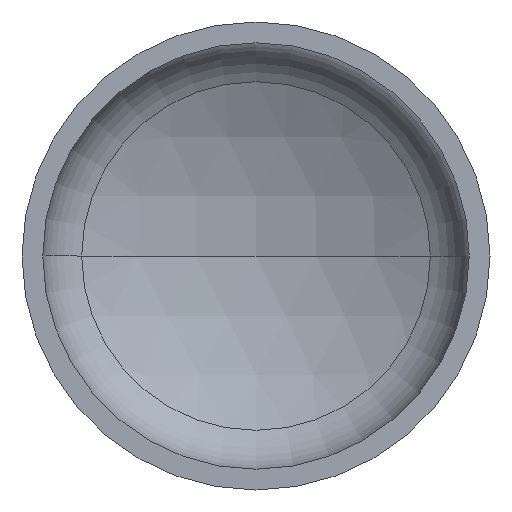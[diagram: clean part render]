
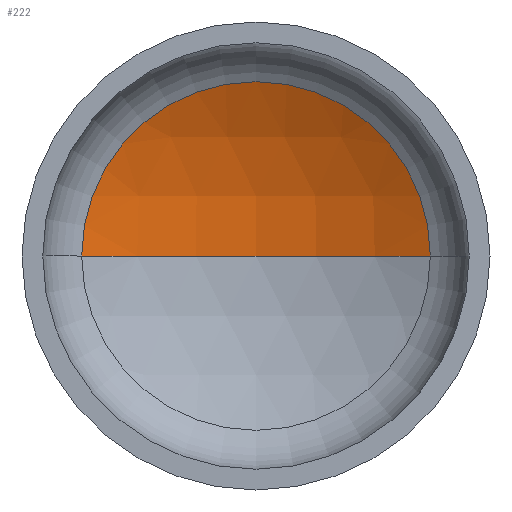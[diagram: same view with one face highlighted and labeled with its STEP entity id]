
A CAD part, front view. The second image highlights one B-rep face of the part: STEP entity #222.
In plain terms, the highlighted spherical face has radius 720 mm.
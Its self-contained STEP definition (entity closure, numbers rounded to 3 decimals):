
#3 = FACE_OUTER_BOUND ( 'NONE', #8, .T. ) ;
#8 = EDGE_LOOP ( 'NONE', ( #19, #399, #137 ) ) ;
#13 = AXIS2_PLACEMENT_3D ( 'NONE', #236, #274, #179 ) ;
#19 = ORIENTED_EDGE ( 'NONE', *, *, #79, .F. ) ;
#20 = VERTEX_POINT ( 'NONE', #281 ) ;
#25 = AXIS2_PLACEMENT_3D ( 'NONE', #26, #130, #309 ) ;
#26 = CARTESIAN_POINT ( 'NONE',  ( 0., -393.323, 0. ) ) ;
#29 = AXIS2_PLACEMENT_3D ( 'NONE', #365, #190, #52 ) ;
#30 = AXIS2_PLACEMENT_3D ( 'NONE', #223, #224, #218 ) ;
#52 = DIRECTION ( 'NONE',  ( -1., 0., 0. ) ) ;
#67 = EDGE_CURVE ( 'NONE', #20, #150, #376, .T. ) ;
#75 = EDGE_CURVE ( 'NONE', #159, #20, #371, .T. ) ;
#79 = EDGE_CURVE ( 'NONE', #159, #150, #305, .T. ) ;
#130 = DIRECTION ( 'NONE',  ( 0., 0., 1. ) ) ;
#137 = ORIENTED_EDGE ( 'NONE', *, *, #67, .T. ) ;
#150 = VERTEX_POINT ( 'NONE', #186 ) ;
#159 = VERTEX_POINT ( 'NONE', #220 ) ;
#168 = SPHERICAL_SURFACE ( 'NONE', #13, 720. ) ;
#179 = DIRECTION ( 'NONE',  ( -1., 0., 0. ) ) ;
#186 = CARTESIAN_POINT ( 'NONE',  ( -335.172, 243.905, 0. ) ) ;
#190 = DIRECTION ( 'NONE',  ( 0., 0., -1. ) ) ;
#218 = DIRECTION ( 'NONE',  ( 1., 0., 0. ) ) ;
#220 = CARTESIAN_POINT ( 'NONE',  ( 0., 326.677, 0. ) ) ;
#222 = ADVANCED_FACE ( 'NONE', ( #3 ), #168, .F. ) ;
#223 = CARTESIAN_POINT ( 'NONE',  ( 0., 243.905, 0. ) ) ;
#224 = DIRECTION ( 'NONE',  ( 0., -1., 0. ) ) ;
#236 = CARTESIAN_POINT ( 'NONE',  ( 0., -393.323, 0. ) ) ;
#274 = DIRECTION ( 'NONE',  ( 0., 0., -1. ) ) ;
#281 = CARTESIAN_POINT ( 'NONE',  ( 335.172, 243.905, 0. ) ) ;
#305 = CIRCLE ( 'NONE', #25, 720. ) ;
#309 = DIRECTION ( 'NONE',  ( 1., 0., 0. ) ) ;
#365 = CARTESIAN_POINT ( 'NONE',  ( 0., -393.323, 0. ) ) ;
#371 = CIRCLE ( 'NONE', #29, 720. ) ;
#376 = CIRCLE ( 'NONE', #30, 335.172 ) ;
#399 = ORIENTED_EDGE ( 'NONE', *, *, #75, .T. ) ;
